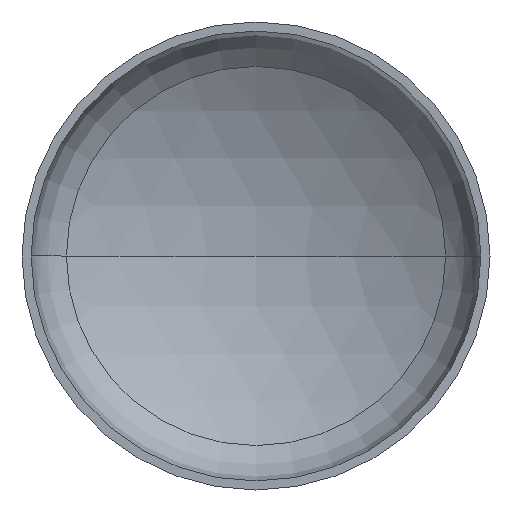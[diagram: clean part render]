
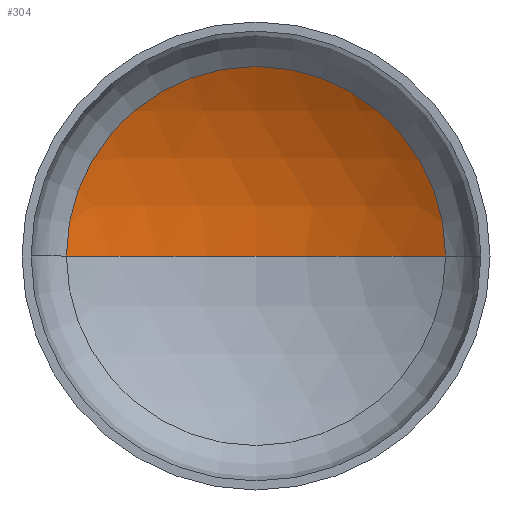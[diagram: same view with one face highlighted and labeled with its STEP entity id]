
A CAD part, front view. The second image highlights one B-rep face of the part: STEP entity #304.
In plain terms, the highlighted spherical face has radius 1360 mm.
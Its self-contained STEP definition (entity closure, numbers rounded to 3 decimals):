
#5 = CARTESIAN_POINT ( 'NONE',  ( 0., -848.552, 0. ) ) ;
#8 = EDGE_LOOP ( 'NONE', ( #35, #28, #138 ) ) ;
#10 = CARTESIAN_POINT ( 'NONE',  ( 0., -848.552, 0. ) ) ;
#16 = VERTEX_POINT ( 'NONE', #250 ) ;
#26 = AXIS2_PLACEMENT_3D ( 'NONE', #386, #396, #140 ) ;
#28 = ORIENTED_EDGE ( 'NONE', *, *, #101, .T. ) ;
#35 = ORIENTED_EDGE ( 'NONE', *, *, #105, .F. ) ;
#40 = AXIS2_PLACEMENT_3D ( 'NONE', #10, #153, #314 ) ;
#41 = AXIS2_PLACEMENT_3D ( 'NONE', #5, #404, #360 ) ;
#49 = AXIS2_PLACEMENT_3D ( 'NONE', #198, #199, #341 ) ;
#93 = CIRCLE ( 'NONE', #41, 1360. ) ;
#99 = EDGE_CURVE ( 'NONE', #133, #16, #313, .T. ) ;
#101 = EDGE_CURVE ( 'NONE', #137, #133, #93, .T. ) ;
#105 = EDGE_CURVE ( 'NONE', #137, #16, #372, .T. ) ;
#133 = VERTEX_POINT ( 'NONE', #364 ) ;
#137 = VERTEX_POINT ( 'NONE', #197 ) ;
#138 = ORIENTED_EDGE ( 'NONE', *, *, #99, .T. ) ;
#140 = DIRECTION ( 'NONE',  ( -1., 0., 0. ) ) ;
#153 = DIRECTION ( 'NONE',  ( 0., 0., 1. ) ) ;
#197 = CARTESIAN_POINT ( 'NONE',  ( 0., 511.448, 0. ) ) ;
#198 = CARTESIAN_POINT ( 'NONE',  ( 0., 324.203, 0. ) ) ;
#199 = DIRECTION ( 'NONE',  ( 0., -1., 0. ) ) ;
#246 = FACE_OUTER_BOUND ( 'NONE', #8, .T. ) ;
#250 = CARTESIAN_POINT ( 'NONE',  ( -688.655, 324.203, 0. ) ) ;
#304 = ADVANCED_FACE ( 'NONE', ( #246 ), #353, .F. ) ;
#313 = CIRCLE ( 'NONE', #49, 688.655 ) ;
#314 = DIRECTION ( 'NONE',  ( 1., 0., 0. ) ) ;
#341 = DIRECTION ( 'NONE',  ( 1., 0., 0. ) ) ;
#353 = SPHERICAL_SURFACE ( 'NONE', #26, 1360. ) ;
#360 = DIRECTION ( 'NONE',  ( -1., 0., 0. ) ) ;
#364 = CARTESIAN_POINT ( 'NONE',  ( 688.655, 324.203, 0. ) ) ;
#372 = CIRCLE ( 'NONE', #40, 1360. ) ;
#386 = CARTESIAN_POINT ( 'NONE',  ( 0., -848.552, 0. ) ) ;
#396 = DIRECTION ( 'NONE',  ( 0., 0., -1. ) ) ;
#404 = DIRECTION ( 'NONE',  ( 0., 0., -1. ) ) ;
